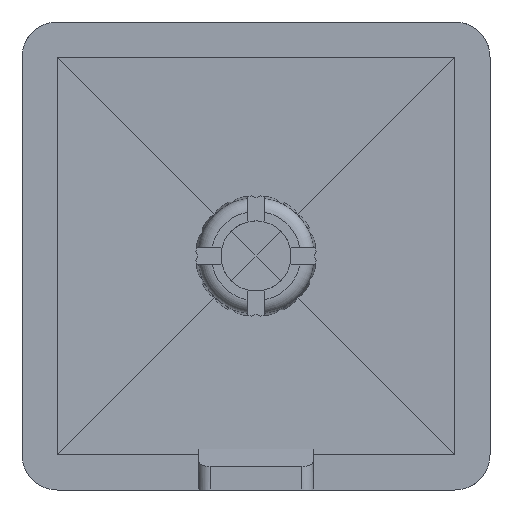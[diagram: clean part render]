
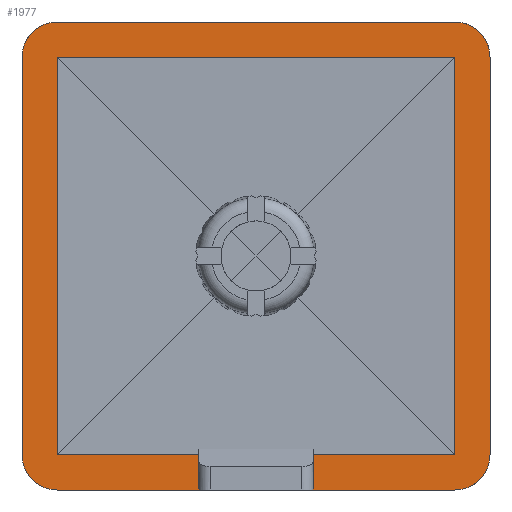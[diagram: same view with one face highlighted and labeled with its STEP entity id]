
A CAD part, front view. The second image highlights one B-rep face of the part: STEP entity #1977.
In plain terms, the highlighted planar face has unit normal (0, -1, 0).
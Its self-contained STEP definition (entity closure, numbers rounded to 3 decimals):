
#71=PLANE('',#2132);
#157=LINE('',#2947,#341);
#160=LINE('',#2957,#344);
#163=LINE('',#2962,#347);
#167=LINE('',#2971,#351);
#170=LINE('',#2977,#354);
#171=LINE('',#2981,#355);
#172=LINE('',#2983,#356);
#173=LINE('',#2985,#357);
#174=LINE('',#2987,#358);
#175=LINE('',#2988,#359);
#176=LINE('',#2994,#360);
#177=LINE('',#2995,#361);
#341=VECTOR('',#2379,1000.);
#344=VECTOR('',#2386,1000.);
#347=VECTOR('',#2389,1000.);
#351=VECTOR('',#2397,1000.);
#354=VECTOR('',#2402,1000.);
#355=VECTOR('',#2405,1000.);
#356=VECTOR('',#2406,1000.);
#357=VECTOR('',#2407,1000.);
#358=VECTOR('',#2408,1000.);
#359=VECTOR('',#2409,1000.);
#360=VECTOR('',#2418,1000.);
#361=VECTOR('',#2419,1000.);
#554=FACE_OUTER_BOUND('',#665,.T.);
#665=EDGE_LOOP('',(#1425,#1426,#1427,#1428,#1429,#1430,#1431,#1432,#1433,
#1434,#1435,#1436,#1437,#1438,#1439,#1440));
#787=CIRCLE('',#2133,3.);
#788=CIRCLE('',#2134,3.);
#789=CIRCLE('',#2135,3.);
#790=CIRCLE('',#2136,3.);
#872=VERTEX_POINT('',#2943);
#873=VERTEX_POINT('',#2945);
#877=VERTEX_POINT('',#2954);
#878=VERTEX_POINT('',#2956);
#879=VERTEX_POINT('',#2959);
#880=VERTEX_POINT('',#2961);
#882=VERTEX_POINT('',#2967);
#883=VERTEX_POINT('',#2969);
#884=VERTEX_POINT('',#2973);
#885=VERTEX_POINT('',#2975);
#886=VERTEX_POINT('',#2979);
#887=VERTEX_POINT('',#2980);
#888=VERTEX_POINT('',#2982);
#889=VERTEX_POINT('',#2984);
#890=VERTEX_POINT('',#2986);
#891=VERTEX_POINT('',#2993);
#1082=EDGE_CURVE('',#873,#872,#157,.T.);
#1086=EDGE_CURVE('',#877,#878,#160,.T.);
#1089=EDGE_CURVE('',#879,#880,#163,.T.);
#1094=EDGE_CURVE('',#883,#882,#167,.T.);
#1097=EDGE_CURVE('',#885,#884,#170,.T.);
#1098=EDGE_CURVE('',#886,#887,#171,.T.);
#1099=EDGE_CURVE('',#888,#886,#172,.T.);
#1100=EDGE_CURVE('',#889,#888,#173,.T.);
#1101=EDGE_CURVE('',#890,#889,#174,.T.);
#1102=EDGE_CURVE('',#880,#890,#175,.T.);
#1103=EDGE_CURVE('',#882,#879,#787,.T.);
#1104=EDGE_CURVE('',#884,#883,#788,.T.);
#1105=EDGE_CURVE('',#872,#885,#789,.T.);
#1106=EDGE_CURVE('',#878,#873,#790,.T.);
#1107=EDGE_CURVE('',#891,#877,#176,.T.);
#1108=EDGE_CURVE('',#887,#891,#177,.T.);
#1425=ORIENTED_EDGE('',*,*,#1098,.F.);
#1426=ORIENTED_EDGE('',*,*,#1099,.F.);
#1427=ORIENTED_EDGE('',*,*,#1100,.F.);
#1428=ORIENTED_EDGE('',*,*,#1101,.F.);
#1429=ORIENTED_EDGE('',*,*,#1102,.F.);
#1430=ORIENTED_EDGE('',*,*,#1089,.F.);
#1431=ORIENTED_EDGE('',*,*,#1103,.F.);
#1432=ORIENTED_EDGE('',*,*,#1094,.F.);
#1433=ORIENTED_EDGE('',*,*,#1104,.F.);
#1434=ORIENTED_EDGE('',*,*,#1097,.F.);
#1435=ORIENTED_EDGE('',*,*,#1105,.F.);
#1436=ORIENTED_EDGE('',*,*,#1082,.F.);
#1437=ORIENTED_EDGE('',*,*,#1106,.F.);
#1438=ORIENTED_EDGE('',*,*,#1086,.F.);
#1439=ORIENTED_EDGE('',*,*,#1107,.F.);
#1440=ORIENTED_EDGE('',*,*,#1108,.F.);
#1977=ADVANCED_FACE('',(#554),#71,.F.);
#2132=AXIS2_PLACEMENT_3D('',#2978,#2403,#2404);
#2133=AXIS2_PLACEMENT_3D('',#2989,#2410,#2411);
#2134=AXIS2_PLACEMENT_3D('',#2990,#2412,#2413);
#2135=AXIS2_PLACEMENT_3D('',#2991,#2414,#2415);
#2136=AXIS2_PLACEMENT_3D('',#2992,#2416,#2417);
#2379=DIRECTION('',(0.,0.,1.));
#2386=DIRECTION('',(-1.,0.,0.));
#2389=DIRECTION('',(-1.,0.,0.));
#2397=DIRECTION('',(0.,0.,-1.));
#2402=DIRECTION('',(1.,0.,0.));
#2403=DIRECTION('center_axis',(0.,1.,0.));
#2404=DIRECTION('ref_axis',(0.,0.,1.));
#2405=DIRECTION('',(0.,0.,-1.));
#2406=DIRECTION('',(-1.,0.,0.));
#2407=DIRECTION('',(0.,0.,1.));
#2408=DIRECTION('',(1.,0.,0.));
#2409=DIRECTION('',(0.,0.,1.));
#2410=DIRECTION('center_axis',(0.,1.,0.));
#2411=DIRECTION('ref_axis',(0.,0.,-1.));
#2412=DIRECTION('center_axis',(0.,1.,0.));
#2413=DIRECTION('ref_axis',(0.,0.,-1.));
#2414=DIRECTION('center_axis',(0.,1.,0.));
#2415=DIRECTION('ref_axis',(0.,0.,-1.));
#2416=DIRECTION('center_axis',(0.,1.,0.));
#2417=DIRECTION('ref_axis',(0.,0.,-1.));
#2418=DIRECTION('',(0.,0.,-1.));
#2419=DIRECTION('',(1.,0.,0.));
#2943=CARTESIAN_POINT('',(-20.,0.,17.));
#2945=CARTESIAN_POINT('',(-20.,0.,-17.));
#2947=CARTESIAN_POINT('',(-20.,0.,-20.));
#2954=CARTESIAN_POINT('',(-4.9,0.,-20.));
#2956=CARTESIAN_POINT('',(-17.,0.,-20.));
#2957=CARTESIAN_POINT('',(20.,0.,-20.));
#2959=CARTESIAN_POINT('',(17.,0.,-20.));
#2961=CARTESIAN_POINT('',(4.9,0.,-20.));
#2962=CARTESIAN_POINT('',(20.,0.,-20.));
#2967=CARTESIAN_POINT('',(20.,0.,-17.));
#2969=CARTESIAN_POINT('',(20.,0.,17.));
#2971=CARTESIAN_POINT('',(20.,0.,20.));
#2973=CARTESIAN_POINT('',(17.,0.,20.));
#2975=CARTESIAN_POINT('',(-17.,0.,20.));
#2977=CARTESIAN_POINT('',(-20.,0.,20.));
#2978=CARTESIAN_POINT('Origin',(0.,0.,0.));
#2979=CARTESIAN_POINT('',(-17.,0.,17.));
#2980=CARTESIAN_POINT('',(-17.,0.,-17.));
#2981=CARTESIAN_POINT('',(-17.,0.,0.));
#2982=CARTESIAN_POINT('',(17.,0.,17.));
#2983=CARTESIAN_POINT('',(0.,0.,17.));
#2984=CARTESIAN_POINT('',(17.,0.,-17.));
#2985=CARTESIAN_POINT('',(17.,0.,0.));
#2986=CARTESIAN_POINT('',(4.9,0.,-17.));
#2987=CARTESIAN_POINT('',(0.,0.,-17.));
#2988=CARTESIAN_POINT('',(4.9,0.,0.));
#2989=CARTESIAN_POINT('Origin',(17.,0.,-17.));
#2990=CARTESIAN_POINT('Origin',(17.,0.,17.));
#2991=CARTESIAN_POINT('Origin',(-17.,0.,17.));
#2992=CARTESIAN_POINT('Origin',(-17.,0.,-17.));
#2993=CARTESIAN_POINT('',(-4.9,0.,-17.));
#2994=CARTESIAN_POINT('',(-4.9,0.,0.));
#2995=CARTESIAN_POINT('',(0.,0.,-17.));
